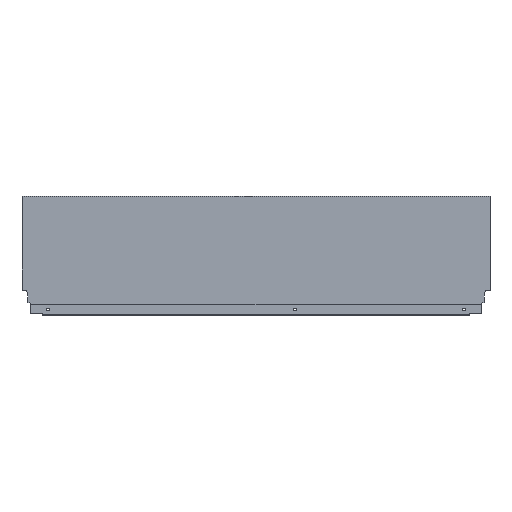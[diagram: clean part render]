
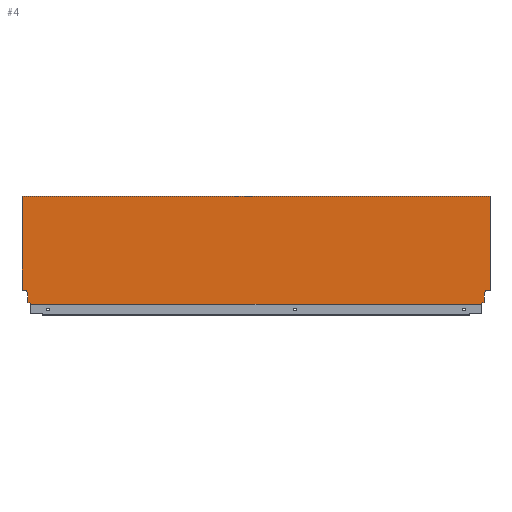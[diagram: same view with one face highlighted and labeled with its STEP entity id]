
A CAD part, top view. The second image highlights one B-rep face of the part: STEP entity #4.
In plain terms, the highlighted planar face has unit normal (0, 0, 1).
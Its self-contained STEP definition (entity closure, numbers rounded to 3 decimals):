
#4 = ADVANCED_FACE ( 'NONE', ( #1004 ), #73, .T. ) ;
#73 = PLANE ( 'NONE',  #812 ) ;
#78 = VERTEX_POINT ( 'NONE', #613 ) ;
#82 = VERTEX_POINT ( 'NONE', #616 ) ;
#86 = DIRECTION ( 'NONE',  ( 1., 0., 0. ) ) ;
#87 = CARTESIAN_POINT ( 'NONE',  ( -715., 0., 7.5 ) ) ;
#89 = DIRECTION ( 'NONE',  ( 1., 0., 0. ) ) ;
#90 = DIRECTION ( 'NONE',  ( 0., -1., 0. ) ) ;
#92 = CARTESIAN_POINT ( 'NONE',  ( 0., 0., 7.5 ) ) ;
#93 = CARTESIAN_POINT ( 'NONE',  ( -715., 164.7, 7.5 ) ) ;
#95 = DIRECTION ( 'NONE',  ( -0.94, -0.342, 0. ) ) ;
#96 = CARTESIAN_POINT ( 'NONE',  ( 0., 21.2, 7.5 ) ) ;
#97 = DIRECTION ( 'NONE',  ( -1., 0., 0. ) ) ;
#98 = DIRECTION ( 'NONE',  ( 0., 0., 1. ) ) ;
#339 = VERTEX_POINT ( 'NONE', #644 ) ;
#340 = VERTEX_POINT ( 'NONE', #645 ) ;
#350 = VERTEX_POINT ( 'NONE', #653 ) ;
#360 = VERTEX_POINT ( 'NONE', #608 ) ;
#368 = VERTEX_POINT ( 'NONE', #599 ) ;
#383 = VERTEX_POINT ( 'NONE', #560 ) ;
#408 = VERTEX_POINT ( 'NONE', #558 ) ;
#430 = VERTEX_POINT ( 'NONE', #564 ) ;
#480 = VERTEX_POINT ( 'NONE', #563 ) ;
#483 = CARTESIAN_POINT ( 'NONE',  ( -13.004, 1.146, 7.5 ) ) ;
#484 = DIRECTION ( 'NONE',  ( 0., 1., 0. ) ) ;
#485 = CARTESIAN_POINT ( 'NONE',  ( -715., 0., 7.5 ) ) ;
#486 = DIRECTION ( 'NONE',  ( -0.94, 0.342, 0. ) ) ;
#487 = DIRECTION ( 'NONE',  ( -1., 0., 0. ) ) ;
#488 = CARTESIAN_POINT ( 'NONE',  ( -8.9, 10.765, 7.5 ) ) ;
#489 = DIRECTION ( 'NONE',  ( 0., -1., 0. ) ) ;
#490 = CARTESIAN_POINT ( 'NONE',  ( -706.1, 10.765, 7.5 ) ) ;
#493 = DIRECTION ( 'NONE',  ( 0., -1., 0. ) ) ;
#494 = DIRECTION ( 'NONE',  ( 0., -1., 0. ) ) ;
#495 = CARTESIAN_POINT ( 'NONE',  ( -8.9, 2.64, 7.5 ) ) ;
#496 = DIRECTION ( 'NONE',  ( -0.174, -0.985, 0. ) ) ;
#497 = CARTESIAN_POINT ( 'NONE',  ( -7.06, 21.2, 7.5 ) ) ;
#498 = CARTESIAN_POINT ( 'NONE',  ( -706.1, 2.64, 7.5 ) ) ;
#499 = CARTESIAN_POINT ( 'NONE',  ( -715., 0., 7.5 ) ) ;
#503 = DIRECTION ( 'NONE',  ( 0., 1., 0. ) ) ;
#505 = DIRECTION ( 'NONE',  ( 1., 0., 0. ) ) ;
#508 = CARTESIAN_POINT ( 'NONE',  ( -720., 21.2, 7.5 ) ) ;
#509 = DIRECTION ( 'NONE',  ( -0.174, 0.985, 0. ) ) ;
#510 = CARTESIAN_POINT ( 'NONE',  ( -707.94, 21.2, 7.5 ) ) ;
#511 = VERTEX_POINT ( 'NONE', #572 ) ;
#512 = VERTEX_POINT ( 'NONE', #571 ) ;
#528 = CARTESIAN_POINT ( 'NONE',  ( -701.996, 1.146, 7.5 ) ) ;
#533 = VERTEX_POINT ( 'NONE', #580 ) ;
#558 = CARTESIAN_POINT ( 'NONE',  ( -706.1, 2.64, 7.5 ) ) ;
#560 = CARTESIAN_POINT ( 'NONE',  ( -7.06, 21.2, 7.5 ) ) ;
#563 = CARTESIAN_POINT ( 'NONE',  ( -8.9, 10.765, 7.5 ) ) ;
#564 = CARTESIAN_POINT ( 'NONE',  ( 0., 21.2, 7.5 ) ) ;
#571 = CARTESIAN_POINT ( 'NONE',  ( -8.9, 2.64, 7.5 ) ) ;
#572 = CARTESIAN_POINT ( 'NONE',  ( -13.004, 0., 7.5 ) ) ;
#580 = CARTESIAN_POINT ( 'NONE',  ( -701.996, 0., 7.5 ) ) ;
#599 = CARTESIAN_POINT ( 'NONE',  ( -715., 164.7, 7.5 ) ) ;
#608 = CARTESIAN_POINT ( 'NONE',  ( -715., 21.2, 7.5 ) ) ;
#613 = CARTESIAN_POINT ( 'NONE',  ( -13.004, 1.146, 7.5 ) ) ;
#616 = CARTESIAN_POINT ( 'NONE',  ( -707.94, 21.2, 7.5 ) ) ;
#644 = CARTESIAN_POINT ( 'NONE',  ( -701.996, 1.146, 7.5 ) ) ;
#645 = CARTESIAN_POINT ( 'NONE',  ( -706.1, 10.765, 7.5 ) ) ;
#653 = CARTESIAN_POINT ( 'NONE',  ( 0., 164.7, 7.5 ) ) ;
#698 = EDGE_CURVE ( 'NONE', #533, #511, #1380, .T. ) ;
#699 = EDGE_CURVE ( 'NONE', #533, #339, #1497, .T. ) ;
#700 = EDGE_CURVE ( 'NONE', #340, #82, #1501, .T. ) ;
#702 = EDGE_CURVE ( 'NONE', #339, #408, #1511, .T. ) ;
#703 = EDGE_CURVE ( 'NONE', #82, #360, #1518, .T. ) ;
#704 = EDGE_CURVE ( 'NONE', #368, #360, #1500, .T. ) ;
#705 = EDGE_CURVE ( 'NONE', #408, #340, #1505, .T. ) ;
#706 = EDGE_CURVE ( 'NONE', #480, #512, #1512, .T. ) ;
#707 = EDGE_CURVE ( 'NONE', #78, #511, #1508, .T. ) ;
#708 = EDGE_CURVE ( 'NONE', #383, #480, #1489, .T. ) ;
#709 = EDGE_CURVE ( 'NONE', #512, #78, #1506, .T. ) ;
#710 = EDGE_CURVE ( 'NONE', #430, #383, #1492, .T. ) ;
#711 = EDGE_CURVE ( 'NONE', #350, #430, #1490, .T. ) ;
#712 = EDGE_CURVE ( 'NONE', #368, #350, #1486, .T. ) ;
#812 = AXIS2_PLACEMENT_3D ( 'NONE', #87, #98, #89 ) ;
#838 = ORIENTED_EDGE ( 'NONE', *, *, #704, .T. ) ;
#839 = ORIENTED_EDGE ( 'NONE', *, *, #703, .F. ) ;
#840 = ORIENTED_EDGE ( 'NONE', *, *, #700, .F. ) ;
#841 = ORIENTED_EDGE ( 'NONE', *, *, #705, .F. ) ;
#842 = ORIENTED_EDGE ( 'NONE', *, *, #702, .F. ) ;
#843 = ORIENTED_EDGE ( 'NONE', *, *, #699, .F. ) ;
#844 = ORIENTED_EDGE ( 'NONE', *, *, #698, .T. ) ;
#845 = ORIENTED_EDGE ( 'NONE', *, *, #707, .F. ) ;
#846 = ORIENTED_EDGE ( 'NONE', *, *, #709, .F. ) ;
#847 = ORIENTED_EDGE ( 'NONE', *, *, #706, .F. ) ;
#848 = ORIENTED_EDGE ( 'NONE', *, *, #708, .F. ) ;
#849 = ORIENTED_EDGE ( 'NONE', *, *, #710, .F. ) ;
#850 = ORIENTED_EDGE ( 'NONE', *, *, #711, .F. ) ;
#851 = ORIENTED_EDGE ( 'NONE', *, *, #712, .F. ) ;
#1004 = FACE_OUTER_BOUND ( 'NONE', #1262, .T. ) ;
#1262 = EDGE_LOOP ( 'NONE', ( #838, #839, #840, #841, #842, #843, #844, #845, #846, #847, #848, #849, #850, #851 ) ) ;
#1380 = LINE ( 'NONE', #499, #1495 ) ;
#1481 = VECTOR ( 'NONE', #86, 1000. ) ;
#1483 = VECTOR ( 'NONE', #90, 1000. ) ;
#1485 = VECTOR ( 'NONE', #97, 1000. ) ;
#1486 = LINE ( 'NONE', #93, #1481 ) ;
#1487 = VECTOR ( 'NONE', #95, 1000. ) ;
#1488 = VECTOR ( 'NONE', #496, 1000. ) ;
#1489 = LINE ( 'NONE', #497, #1488 ) ;
#1490 = LINE ( 'NONE', #92, #1483 ) ;
#1491 = VECTOR ( 'NONE', #494, 1000. ) ;
#1492 = LINE ( 'NONE', #96, #1485 ) ;
#1495 = VECTOR ( 'NONE', #505, 1000. ) ;
#1497 = LINE ( 'NONE', #528, #1499 ) ;
#1499 = VECTOR ( 'NONE', #503, 1000. ) ;
#1500 = LINE ( 'NONE', #485, #1507 ) ;
#1501 = LINE ( 'NONE', #510, #1513 ) ;
#1503 = VECTOR ( 'NONE', #493, 1000. ) ;
#1504 = VECTOR ( 'NONE', #484, 1000. ) ;
#1505 = LINE ( 'NONE', #490, #1504 ) ;
#1506 = LINE ( 'NONE', #495, #1487 ) ;
#1507 = VECTOR ( 'NONE', #489, 1000. ) ;
#1508 = LINE ( 'NONE', #483, #1491 ) ;
#1509 = VECTOR ( 'NONE', #487, 1000. ) ;
#1510 = VECTOR ( 'NONE', #486, 1000. ) ;
#1511 = LINE ( 'NONE', #498, #1510 ) ;
#1512 = LINE ( 'NONE', #488, #1503 ) ;
#1513 = VECTOR ( 'NONE', #509, 1000. ) ;
#1518 = LINE ( 'NONE', #508, #1509 ) ;
